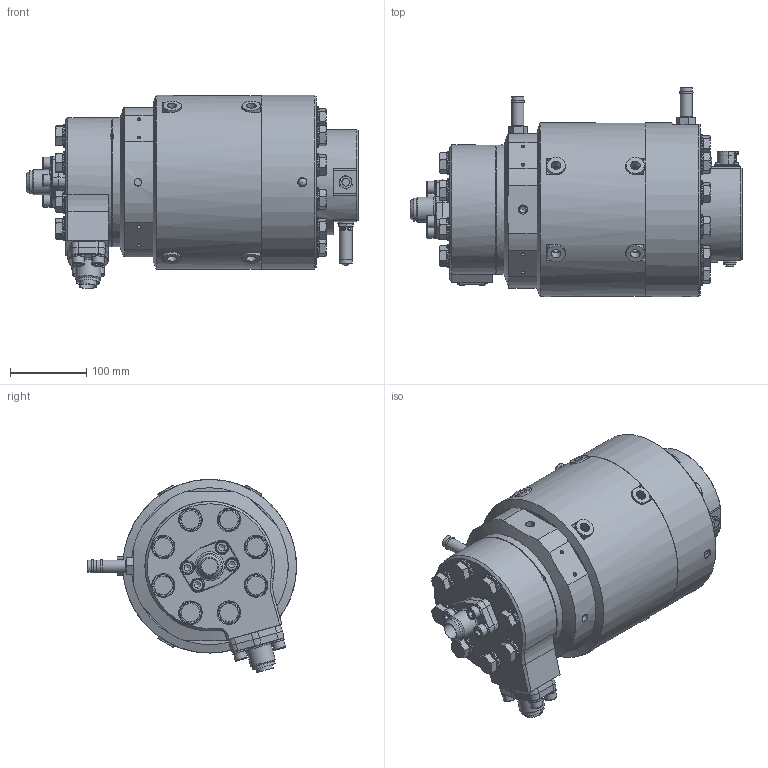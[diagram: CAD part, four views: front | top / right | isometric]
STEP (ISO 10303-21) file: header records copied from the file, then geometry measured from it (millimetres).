
FILE_DESCRIPTION(/* description */ (''),/* implementation_level */ '2;1');
FILE_NAME(/* name */ '',/* time_stamp */ '2024-06-06T09:47:28+02:00',/* author */ (''),/* organization */ (''),/* preprocessor_version */ 'ST-DEVELOPER v18.1',/* originating_system */ 'Autodesk Inventor 2021',/* authorisation */ '');
FILE_SCHEMA (('AUTOMOTIVE_DESIGN { 1 0 10303 214 3 1 1 }'));
Length unit declared in the file: millimetre
Products named in the file (1): 032079
Bounding box: 435.8 x 274.42 x 253.66 mm (x, y, z)
Volume: 12873804.4 mm3; surface area: 462821.2 mm2
Topology: 3 solids, 3 shells, 4313 faces, 11847 edges, 7671 vertices
Faces by surface type: plane 3347, cylinder 532, cone 288, torus 96, bspline 47, sphere 3
Full cylindrical faces by diameter (mm): 4.5 x2, 4.55 x3, 4.917 x9, 5.15 x3, 5.5 x8, 6 x3, 7.5 x2, 8 x3, 8.376 x2, 8.5 x2, 10 x14, 10.106 x8, 10.26 x1, 10.4 x1, 10.6 x5, 10.7 x1, 10.8 x8, 11 x1, 12 x3, 12.5 x8, 13 x4, 13.97 x2, 14.75 x8, 15 x1, 15.8 x1, 15.875 x4, 16 x8, 17 x6, 20.57 x2, 21.5 x2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
Entity records: 146137 total; most frequent: CARTESIAN_POINT 32593, ORIENTED_EDGE 23628, DIRECTION 21826, EDGE_CURVE 11814, LINE 8294, VECTOR 8294, VERTEX_POINT 7671, AXIS2_PLACEMENT_3D 6766
